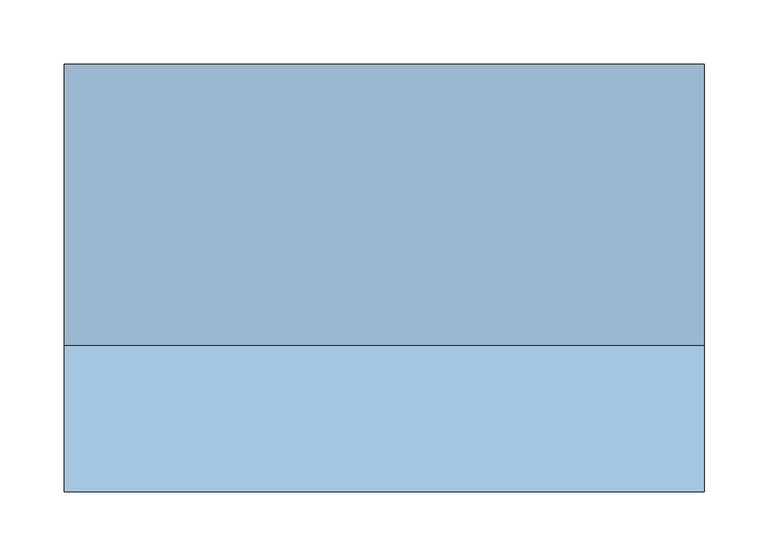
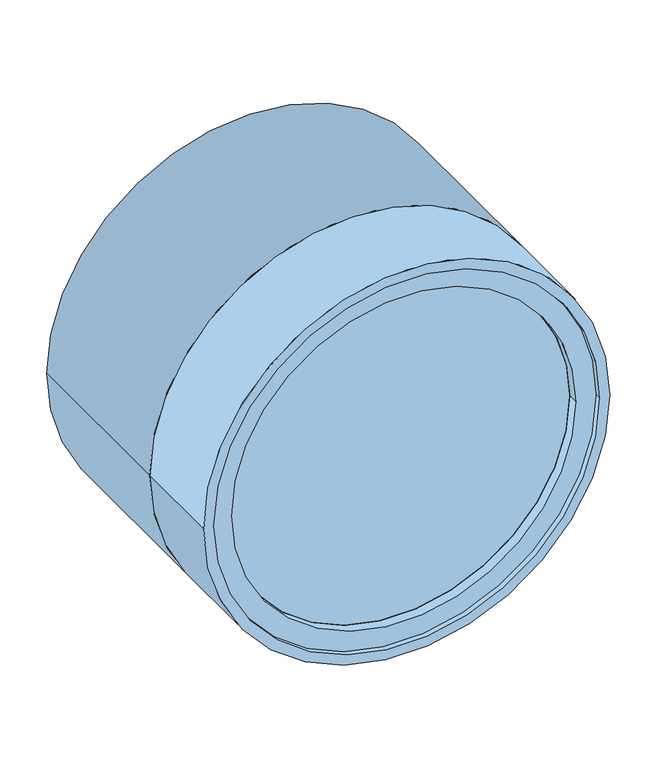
"""IFC4 building model written with IfcOpenShell, lengths in millimetres: window geometry, VENTANA_CAÑO_500 : CAÑO_500mm."""

from ifc_helpers import new_model, si_unit, point, frame, frame_2d, origin, place, context, project, spatial, polyline, circle_curve, trimmed, segment, composite_curve, outline, extrude, source, transform, mapped, element, save
from ifc_brep_helpers import plane_surface, cylinder_surface, revolved_surface, advanced_brep


def window_5c5b8207(model_context):
    return source(origin(), model_context, "Body", "SolidModel", [
        extrude(outline(composite_curve([segment(trimmed(circle_curve(frame_2d((1450.0, 0.0)), 237.3), [point((1450.0, -237.3))], [point((1450.0, 237.3))], False, "CARTESIAN"), True, "CONTINUOUS"), segment(trimmed(circle_curve(frame_2d((1450.0, 0.0)), 237.3), [point((1450.0, 237.3))], [point((1450.0, -237.3))], False, "CARTESIAN"), True, "CONTINUOUS")], self_intersect=False), holes=[composite_curve([segment(trimmed(circle_curve(frame_2d((1450.0, 0.0)), 211.9), [point((1450.0, 211.9))], [point((1450.0, -211.9))], True, "CARTESIAN"), True, "CONTINUOUS"), segment(trimmed(circle_curve(frame_2d((1450.0, 0.0)), 211.9), [point((1450.0, -211.9))], [point((1450.0, 211.9))], True, "CARTESIAN"), True, "CONTINUOUS")], self_intersect=False)]), frame((0.0, -157.5, 0.0), z_axis=(0.0, 1.0, 0.0), x_axis=(0.0, 0.0, 1.0)), (0.0, 0.0, 1.0), 31.75),
        extrude(outline(composite_curve([segment(trimmed(circle_curve(frame_2d((1450.0, 0.0)), 211.9), [point((1450.0, 211.9))], [point((1450.0, -211.9))], False, "CARTESIAN"), True, "CONTINUOUS"), segment(trimmed(circle_curve(frame_2d((1450.0, 0.0)), 211.9), [point((1450.0, -211.9))], [point((1450.0, 211.9))], False, "CARTESIAN"), True, "CONTINUOUS")], self_intersect=False)), frame((0.0, -144.8, 0.0), z_axis=(0.0, 1.0, 0.0), x_axis=(0.0, 0.0, 1.0)), (0.0, 0.0, 1.0), 6.35),
        extrude(outline(composite_curve([segment(trimmed(circle_curve(frame_2d((1450.0, 0.0)), 250.0), [point((1450.0, -250.0))], [point((1450.0, 250.0))], False, "CARTESIAN"), True, "CONTINUOUS"), segment(trimmed(circle_curve(frame_2d((1450.0, 0.0)), 250.0), [point((1450.0, 250.0))], [point((1450.0, -250.0))], False, "CARTESIAN"), True, "CONTINUOUS")], self_intersect=False), holes=[composite_curve([segment(trimmed(circle_curve(frame_2d((1450.0, 0.0)), 230.95), [point((1450.0, 230.95))], [point((1450.0, -230.95))], True, "CARTESIAN"), True, "CONTINUOUS"), segment(trimmed(circle_curve(frame_2d((1450.0, 0.0)), 230.95), [point((1450.0, -230.95))], [point((1450.0, 230.95))], True, "CARTESIAN"), True, "CONTINUOUS")], self_intersect=False)]), frame((0.0, -62.25, 0.0), z_axis=(0.0, 1.0, 0.0), x_axis=(0.0, 0.0, 1.0)), (0.0, 0.0, 1.0), 219.75),
        advanced_brep(
        [(-237.3, -125.75, 1450.0), (-237.3, -176.55, 1450.0), (237.3, -176.55, 1450.0), (237.3, -125.75, 1450.0), (-250.0, -176.55, 1450.0), (250.0, -176.55, 1450.0), (218.25, -125.75, 1450.0), (-218.25, -125.75, 1450.0), (-218.25, -62.25, 1450.0), (218.25, -62.25, 1450.0), (-250.0, -62.25, 1450.0), (250.0, -62.25, 1450.0)],
        [
            (0, 1),
            (1, 2, circle_curve(frame((0.0, -176.55, 1450.0), z_axis=(0.0, -1.0, 0.0), x_axis=(1.0, 0.0, 0.0)), 237.3)),
            (2, 3),
            (3, 0, circle_curve(frame((0.0, -125.75, 1450.0), z_axis=(0.0, 1.0, 0.0), x_axis=(1.0, 0.0, 0.0)), 237.3)),
            (2, 1, circle_curve(frame((0.0, -176.55, 1450.0), z_axis=(0.0, -1.0, 0.0), x_axis=(-1.0, 0.0, 0.0)), 237.3)),
            (0, 3, circle_curve(frame((0.0, -125.75, 1450.0), z_axis=(0.0, 1.0, 0.0), x_axis=(-1.0, 0.0, 0.0)), 237.3)),
            (4, 5, circle_curve(frame((0.0, -176.55, 1450.0), z_axis=(0.0, -1.0, 0.0), x_axis=(1.0, 0.0, 0.0)), 250.0)),
            (5, 4, circle_curve(frame((0.0, -176.55, 1450.0), z_axis=(0.0, -1.0, 0.0), x_axis=(-1.0, 0.0, 0.0)), 250.0)),
            (6, 7, circle_curve(frame((0.0, -125.75, 1450.0), z_axis=(0.0, 1.0, 0.0), x_axis=(1.0, 0.0, 0.0)), 218.25)),
            (7, 6, circle_curve(frame((0.0, -125.75, 1450.0), z_axis=(0.0, 1.0, 0.0), x_axis=(-1.0, 0.0, 0.0)), 218.25)),
            (8, 7),
            (6, 9),
            (9, 8, circle_curve(frame((0.0, -62.25, 1450.0), z_axis=(0.0, 1.0, 0.0), x_axis=(1.0, 0.0, 0.0)), 218.25)),
            (4, 10),
            (10, 11, circle_curve(frame((0.0, -62.25, 1450.0), z_axis=(0.0, -1.0, 0.0), x_axis=(1.0, 0.0, 0.0)), 250.0)),
            (11, 5),
            (8, 9, circle_curve(frame((0.0, -62.25, 1450.0), z_axis=(0.0, 1.0, 0.0), x_axis=(-1.0, 0.0, 0.0)), 218.25)),
            (10, 11, circle_curve(frame((0.0, -62.25, 1450.0), z_axis=(0.0, 1.0, 0.0), x_axis=(-1.0, 0.0, 0.0)), 250.0)),
        ],
        [
            revolved_surface(polyline([(237.3, -176.55, 1450.0), (237.3, -125.75, 1450.0)]), (0.0, -170.2, 1450.0), (0.0, -1.0, 0.0)),
            revolved_surface(polyline([(-237.3, -176.55, 1450.0), (-237.3, -125.75, 1450.0)]), (0.0, -170.2, 1450.0), (0.0, -1.0, 0.0)),
            plane_surface(frame((0.0, -176.55, 1450.0), z_axis=(0.0, -1.0, 0.0), x_axis=(-1.0, 0.0, 0.0))),
            plane_surface(frame((0.0, -125.75, 1450.0), z_axis=(0.0, -1.0, 0.0), x_axis=(-1.0, 0.0, 0.0))),
            revolved_surface(polyline([(218.25, -125.75, 1450.0), (218.25, -62.25, 1450.0)]), (0.0, -170.2, 1450.0), (0.0, -1.0, 0.0)),
            cylinder_surface(frame((0.0, -170.2, 1450.0), z_axis=(0.0, -1.0, 0.0), x_axis=(1.0, 0.0, 0.0)), 250.0),
            revolved_surface(polyline([(-218.25, -125.75, 1450.0), (-218.25, -62.25, 1450.0)]), (0.0, -170.2, 1450.0), (0.0, -1.0, 0.0)),
            plane_surface(frame((0.0, -62.25, 1450.0), z_axis=(0.0, 1.0, 0.0), x_axis=(-1.0, 0.0, 0.0))),
            cylinder_surface(frame((0.0, -170.2, 1450.0), z_axis=(0.0, -1.0, 0.0), x_axis=(-1.0, 0.0, 0.0)), 250.0),
        ],
        [
            (0, [[1, 2, 3, 4]]),
            (1, [[-3, 5, -1, 6]]),
            (2, [[7, 8], [-2, -5]]),
            (3, [[-4, -6], [9, 10]]),
            (4, [[11, -9, 12, 13]]),
            (5, [[14, 15, 16, -7]]),
            (6, [[-12, -10, -11, 17]]),
            (7, [[-15, 18], [-13, -17]]),
            (8, [[-16, -18, -14, -8]]),
        ],
    ),
        extrude(outline(composite_curve([segment(trimmed(circle_curve(frame_2d((1450.0, 0.0)), 211.9), [point((1450.0, 211.9))], [point((1450.0, -211.9))], False, "CARTESIAN"), True, "CONTINUOUS"), segment(trimmed(circle_curve(frame_2d((1450.0, 0.0)), 211.9), [point((1450.0, -211.9))], [point((1450.0, 211.9))], False, "CARTESIAN"), True, "CONTINUOUS")], self_intersect=False)), frame((0.0, -157.5, 0.0), z_axis=(0.0, 1.0, 0.0), x_axis=(0.0, 0.0, 1.0)), (0.0, 0.0, 1.0), 6.35),
        extrude(outline(composite_curve([segment(trimmed(circle_curve(frame_2d((1450.0, 0.0)), 237.3), [point((1450.0, -237.3))], [point((1450.0, 237.3))], False, "CARTESIAN"), True, "CONTINUOUS"), segment(trimmed(circle_curve(frame_2d((1450.0, 0.0)), 237.3), [point((1450.0, 237.3))], [point((1450.0, -237.3))], False, "CARTESIAN"), True, "CONTINUOUS")], self_intersect=False), holes=[composite_curve([segment(trimmed(circle_curve(frame_2d((1450.0, 0.0)), 211.9), [point((1450.0, 211.9))], [point((1450.0, -211.9))], True, "CARTESIAN"), True, "CONTINUOUS"), segment(trimmed(circle_curve(frame_2d((1450.0, 0.0)), 211.9), [point((1450.0, -211.9))], [point((1450.0, 211.9))], True, "CARTESIAN"), True, "CONTINUOUS")], self_intersect=False)]), frame((0.0, -170.2, 0.0), z_axis=(0.0, 1.0, 0.0), x_axis=(0.0, 0.0, 1.0)), (0.0, 0.0, 1.0), 12.7),
        extrude(outline(composite_curve([segment(trimmed(circle_curve(frame_2d((47.625, 1320.0)), 8.0), [point((55.625, 1320.0))], [point((39.625, 1320.0))], False, "CARTESIAN"), True, "CONTINUOUS"), segment(trimmed(circle_curve(frame_2d((47.625, 1320.0)), 8.0), [point((39.625, 1320.0))], [point((55.625, 1320.0))], False, "CARTESIAN"), True, "CONTINUOUS")], self_intersect=False)), frame((-200.0, 0.0, 0.0), z_axis=(1.0, 0.0, 0.0), x_axis=(0.0, 1.0, 0.0)), (0.0, 0.0, 1.0), 400.0),
        extrude(outline(composite_curve([segment(trimmed(circle_curve(frame_2d((47.625, 1580.0)), 8.0), [point((55.625, 1580.0))], [point((39.625, 1580.0))], False, "CARTESIAN"), True, "CONTINUOUS"), segment(trimmed(circle_curve(frame_2d((47.625, 1580.0)), 8.0), [point((39.625, 1580.0))], [point((55.625, 1580.0))], False, "CARTESIAN"), True, "CONTINUOUS")], self_intersect=False)), frame((-200.0, 0.0, 0.0), z_axis=(1.0, 0.0, 0.0), x_axis=(0.0, 1.0, 0.0)), (0.0, 0.0, 1.0), 400.0),
        extrude(outline(composite_curve([segment(trimmed(circle_curve(frame_2d((47.625, 1450.0)), 8.0), [point((55.625, 1450.0))], [point((39.625, 1450.0))], False, "CARTESIAN"), True, "CONTINUOUS"), segment(trimmed(circle_curve(frame_2d((47.625, 1450.0)), 8.0), [point((39.625, 1450.0))], [point((55.625, 1450.0))], False, "CARTESIAN"), True, "CONTINUOUS")], self_intersect=False)), frame((-235.0, 0.0, 0.0), z_axis=(1.0, 0.0, 0.0), x_axis=(0.0, 1.0, 0.0)), (0.0, 0.0, 1.0), 470.0),
    ])


if __name__ == "__main__":
    model = new_model("IFC4")
    model_context = context("Model", 3, world=origin())
    ifc_project = project(units=[si_unit("LENGTHUNIT", "METRE", prefix="MILLI")], contexts=[model_context])
    site = spatial("IfcSite", under=ifc_project)
    building = spatial("IfcBuilding", under=site)
    placement = place(None, origin())
    window_shape = window_5c5b8207(model_context)
    element("IfcWindow", 1, ObjectType="VENTANA_CAÑO_500 : CAÑO_500mm", at=placement, inside=building, context=model_context, shape_type="MappedRepresentation", body=[
        mapped(window_shape, transform((0.0, 0.0, 0.0), x_axis=(1.0, 0.0, 0.0), y_axis=(0.0, 1.0, 0.0), z_axis=(0.0, 0.0, 1.0))),
    ])
    save(model, "model.ifc")
